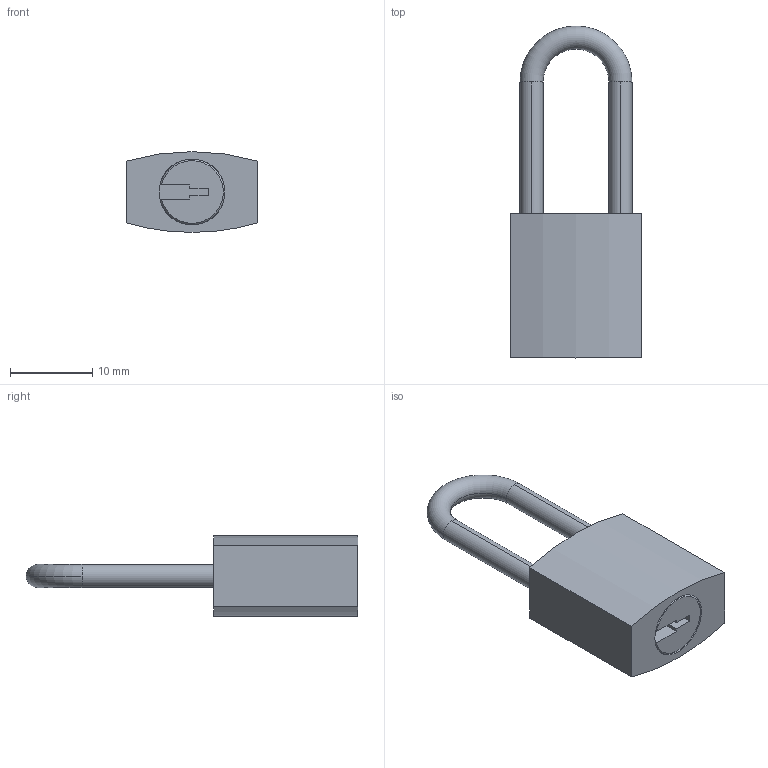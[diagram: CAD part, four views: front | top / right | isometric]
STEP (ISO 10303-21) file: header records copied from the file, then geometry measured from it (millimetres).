
FILE_DESCRIPTION (( 'STEP AP214' ), '1' );
FILE_NAME ('ELN-1010-15.STEP', '2016-01-28T17:33:12', ( '' ), ( '' ), 'SwSTEP 2.0', 'SolidWorks 2012', '' );
FILE_SCHEMA (( 'AUTOMOTIVE_DESIGN' ));
Length unit declared in the file: millimetre
Products named in the file (1): ELN-1010-15
Bounding box: 16 x 40.3 x 9.8 mm (x, y, z)
Volume: 2807.2 mm3; surface area: 1590.1 mm2
Topology: 1 solids, 1 shells, 25 faces, 66 edges, 44 vertices
Faces by surface type: plane 13, cylinder 9, torus 2, cone 1
Entity records: 827 total; most frequent: DIRECTION 143, CARTESIAN_POINT 142, ORIENTED_EDGE 132, EDGE_CURVE 66, AXIS2_PLACEMENT_3D 53, VERTEX_POINT 44, VECTOR 37, LINE 37
